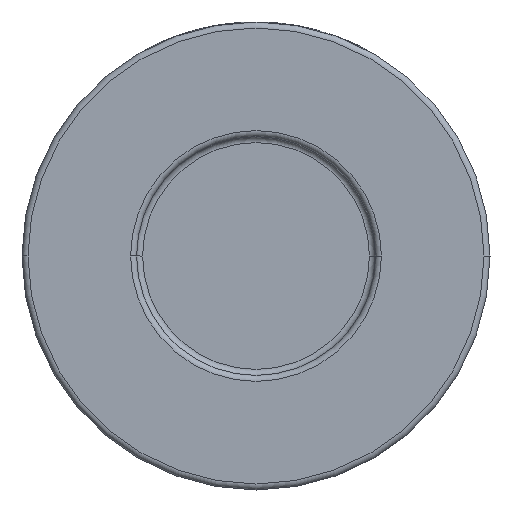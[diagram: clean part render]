
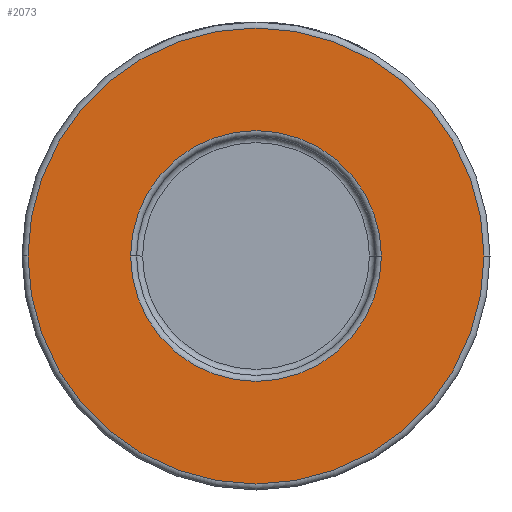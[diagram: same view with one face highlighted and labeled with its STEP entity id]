
A CAD part, front view. The second image highlights one B-rep face of the part: STEP entity #2073.
In plain terms, the highlighted planar face has unit normal (0, -1, 0).
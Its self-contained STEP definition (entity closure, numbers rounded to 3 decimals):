
#57 = CIRCLE ( 'NONE', #4231, 38. ) ;
#75 = FACE_OUTER_BOUND ( 'NONE', #2195, .T. ) ;
#159 = DIRECTION ( 'NONE',  ( 0., -1., 0. ) ) ;
#291 = EDGE_CURVE ( 'NONE', #3817, #4384, #3911, .T. ) ;
#328 = CARTESIAN_POINT ( 'NONE',  ( 39., -26., 0. ) ) ;
#376 = DIRECTION ( 'NONE',  ( 1., 0., 0. ) ) ;
#384 = EDGE_CURVE ( 'NONE', #4384, #3817, #1822, .T. ) ;
#821 = DIRECTION ( 'NONE',  ( 1., 0., 0. ) ) ;
#900 = VERTEX_POINT ( 'NONE', #2355 ) ;
#913 = AXIS2_PLACEMENT_3D ( 'NONE', #1369, #2077, #3500 ) ;
#951 = ORIENTED_EDGE ( 'NONE', *, *, #4331, .T. ) ;
#1062 = DIRECTION ( 'NONE',  ( 0., 1., 0. ) ) ;
#1369 = CARTESIAN_POINT ( 'NONE',  ( 0., -26., 0. ) ) ;
#1378 = AXIS2_PLACEMENT_3D ( 'NONE', #328, #3578, #376 ) ;
#1745 = DIRECTION ( 'NONE',  ( 1., 0., 0. ) ) ;
#1822 = CIRCLE ( 'NONE', #4427, 20.9 ) ;
#1937 = ORIENTED_EDGE ( 'NONE', *, *, #291, .T. ) ;
#1958 = CARTESIAN_POINT ( 'NONE',  ( 0., -26., 0. ) ) ;
#2073 = ADVANCED_FACE ( 'NONE', ( #2157, #75 ), #4277, .T. ) ;
#2077 = DIRECTION ( 'NONE',  ( 0., 1., 0. ) ) ;
#2157 = FACE_BOUND ( 'NONE', #2855, .T. ) ;
#2189 = EDGE_CURVE ( 'NONE', #2241, #900, #57, .T. ) ;
#2195 = EDGE_LOOP ( 'NONE', ( #3730, #951 ) ) ;
#2241 = VERTEX_POINT ( 'NONE', #3324 ) ;
#2355 = CARTESIAN_POINT ( 'NONE',  ( -38., -26., 0. ) ) ;
#2458 = ORIENTED_EDGE ( 'NONE', *, *, #384, .T. ) ;
#2512 = AXIS2_PLACEMENT_3D ( 'NONE', #4048, #4031, #3721 ) ;
#2855 = EDGE_LOOP ( 'NONE', ( #1937, #2458 ) ) ;
#2929 = CARTESIAN_POINT ( 'NONE',  ( 0., -26., 0. ) ) ;
#3324 = CARTESIAN_POINT ( 'NONE',  ( 38., -26., 0. ) ) ;
#3500 = DIRECTION ( 'NONE',  ( 1., 0., 0. ) ) ;
#3578 = DIRECTION ( 'NONE',  ( 0., -1., 0. ) ) ;
#3721 = DIRECTION ( 'NONE',  ( 1., 0., 0. ) ) ;
#3730 = ORIENTED_EDGE ( 'NONE', *, *, #2189, .T. ) ;
#3764 = CARTESIAN_POINT ( 'NONE',  ( 20.9, -26., 0. ) ) ;
#3817 = VERTEX_POINT ( 'NONE', #3764 ) ;
#3911 = CIRCLE ( 'NONE', #913, 20.9 ) ;
#4031 = DIRECTION ( 'NONE',  ( 0., -1., 0. ) ) ;
#4048 = CARTESIAN_POINT ( 'NONE',  ( 0., -26., 0. ) ) ;
#4206 = CARTESIAN_POINT ( 'NONE',  ( -20.9, -26., 0. ) ) ;
#4231 = AXIS2_PLACEMENT_3D ( 'NONE', #1958, #159, #821 ) ;
#4277 = PLANE ( 'NONE',  #1378 ) ;
#4331 = EDGE_CURVE ( 'NONE', #900, #2241, #4435, .T. ) ;
#4384 = VERTEX_POINT ( 'NONE', #4206 ) ;
#4427 = AXIS2_PLACEMENT_3D ( 'NONE', #2929, #1062, #1745 ) ;
#4435 = CIRCLE ( 'NONE', #2512, 38. ) ;
